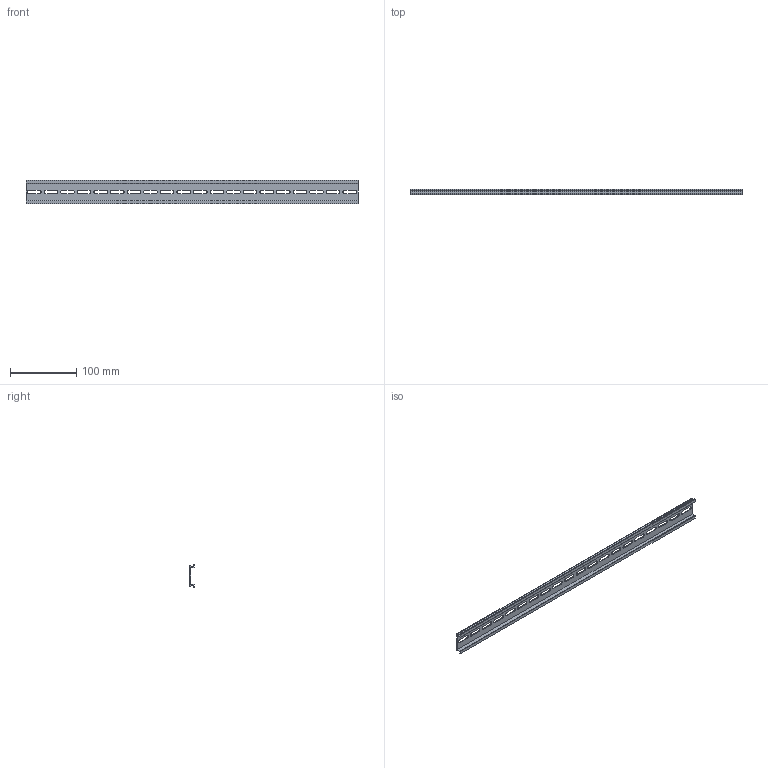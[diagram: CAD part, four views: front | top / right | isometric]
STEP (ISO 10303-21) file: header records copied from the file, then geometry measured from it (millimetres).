
FILE_DESCRIPTION( (''), '2;1');
FILE_NAME ('CVICAD02.15516.DIN-RAIL500_7475.stp','2020-09-01T14:18:49',(''),(''),'spGate 12.6.6','','');
FILE_SCHEMA (('AUTOMOTIVE_DESIGN'));
Length unit declared in the file: millimetre
Bounding box: 500 x 7.5 x 35 mm (x, y, z)
Volume: 35300 mm3; surface area: 47169.8 mm2
Topology: 1 solids, 1 shells, 100 faces, 294 edges, 196 vertices
Faces by surface type: plane 58, cylinder 42
Entity records: 5709 total; most frequent: CARTESIAN_POINT 590, ORIENTED_EDGE 588, DIRECTION 578, COLOUR_RGB 395, PRESENTATION_STYLE_ASSIGNMENT 395, STYLED_ITEM 395, EDGE_CURVE 294, DRAUGHTING_PRE_DEFINED_CURVE_FONT 294
